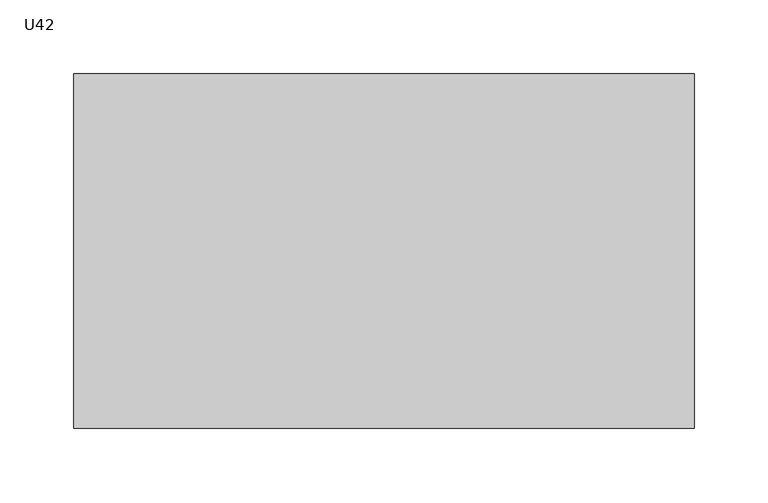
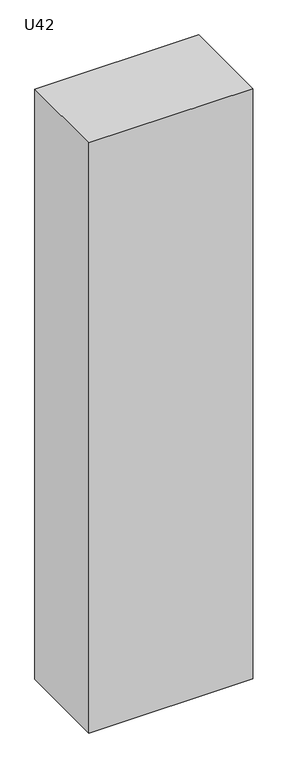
"""IFC4 building model written with IfcOpenShell, lengths in millimetres: column geometry, U42_slup : U42."""

from ifc_helpers import new_model, si_unit, origin, origin_with_axes, place, context, project, spatial, polyline, outline, extrude, source, transform, mapped, element, save


def u42_3e3212eb(model_context):
    return source(origin(), model_context, "Body", "SweptSolid", [
        extrude(outline(polyline([(-210.0, -120.0), (-210.0, 120.0), (210.0, 120.0), (210.0, -120.0), (-210.0, -120.0)])), origin_with_axes(), (0.0, 0.0, 1.0), 1600.0),
    ])


if __name__ == "__main__":
    model = new_model("IFC4")
    model_context = context("Model", 3, world=origin())
    ifc_project = project(units=[si_unit("LENGTHUNIT", "METRE", prefix="MILLI")], contexts=[model_context])
    site = spatial("IfcSite", under=ifc_project)
    building = spatial("IfcBuilding", under=site)
    placement = place(None, origin())
    u42_shape = u42_3e3212eb(model_context)
    element("IfcColumn", 1, ObjectType="U42_slup : U42", at=placement, inside=building, context=model_context, shape_type="MappedRepresentation", body=[
        mapped(u42_shape, transform((0.0, 0.0, 0.0), x_axis=(1.0, 0.0, 0.0), y_axis=(0.0, 1.0, 0.0), z_axis=(0.0, 0.0, 1.0))),
    ])
    save(model, "model.ifc")
